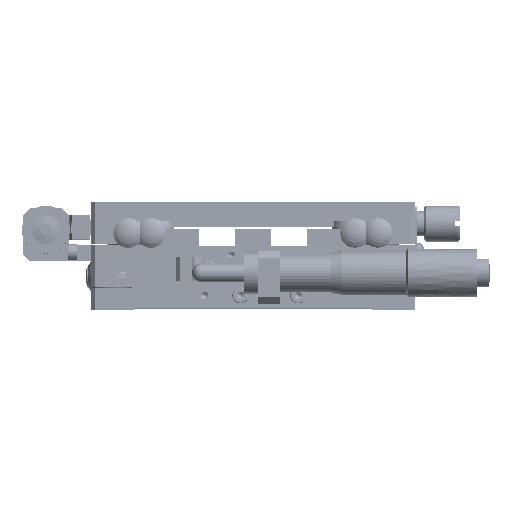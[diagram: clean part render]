
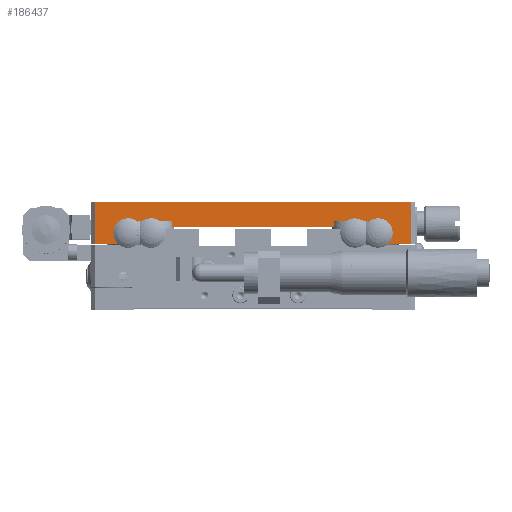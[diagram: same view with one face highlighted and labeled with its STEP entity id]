
A CAD part, top view. The second image highlights one B-rep face of the part: STEP entity #186437.
In plain terms, the highlighted planar face has unit normal (0, 0, 1).
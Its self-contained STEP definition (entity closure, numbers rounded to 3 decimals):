
#3743 = CARTESIAN_POINT ( 'NONE',  ( 7.3, 24.3, 45. ) ) ;
#4353 = DIRECTION ( 'NONE',  ( 1., 0., 0. ) ) ;
#4471 = EDGE_CURVE ( 'NONE', #80592, #74571, #55818, .T. ) ;
#7220 = VERTEX_POINT ( 'NONE', #32679 ) ;
#9411 = VERTEX_POINT ( 'NONE', #82634 ) ;
#9925 = VERTEX_POINT ( 'NONE', #11702 ) ;
#11702 = CARTESIAN_POINT ( 'NONE',  ( 13., 24.6, 45. ) ) ;
#15593 = DIRECTION ( 'NONE',  ( -1., 0., 0. ) ) ;
#17201 = VERTEX_POINT ( 'NONE', #121968 ) ;
#17616 = DIRECTION ( 'NONE',  ( 1., 0., 0. ) ) ;
#20311 = CARTESIAN_POINT ( 'NONE',  ( 22.5, 23., 45. ) ) ;
#23196 = VECTOR ( 'NONE', #150375, 1000. ) ;
#26786 = LINE ( 'NONE', #190597, #160590 ) ;
#32663 = VECTOR ( 'NONE', #204304, 1000. ) ;
#32679 = CARTESIAN_POINT ( 'NONE',  ( 22.5, 23., 45. ) ) ;
#32817 = LINE ( 'NONE', #145621, #53811 ) ;
#34597 = EDGE_CURVE ( 'NONE', #152552, #201559, #93433, .T. ) ;
#35233 = VECTOR ( 'NONE', #121644, 1000. ) ;
#40871 = VECTOR ( 'NONE', #156019, 1000. ) ;
#42072 = VERTEX_POINT ( 'NONE', #79984 ) ;
#44496 = DIRECTION ( 'NONE',  ( 0., 1., 0. ) ) ;
#45454 = EDGE_CURVE ( 'NONE', #80796, #56973, #136289, .T. ) ;
#45707 = LINE ( 'NONE', #93603, #183175 ) ;
#50416 = EDGE_CURVE ( 'NONE', #9411, #9925, #134398, .T. ) ;
#51001 = ORIENTED_EDGE ( 'NONE', *, *, #158434, .T. ) ;
#53811 = VECTOR ( 'NONE', #210495, 1000. ) ;
#54351 = CARTESIAN_POINT ( 'NONE',  ( 67.5, 23., 45. ) ) ;
#54667 = ORIENTED_EDGE ( 'NONE', *, *, #72821, .T. ) ;
#55406 = ORIENTED_EDGE ( 'NONE', *, *, #168867, .F. ) ;
#55818 = LINE ( 'NONE', #137721, #70586 ) ;
#56320 = EDGE_LOOP ( 'NONE', ( #186546, #155270, #199082, #54667, #78952, #147363, #80032, #78651, #72596, #131994, #51001, #187845, #125741, #130331, #158799, #55406 ) ) ;
#56743 = CARTESIAN_POINT ( 'NONE',  ( 7.3, 18.3, 45. ) ) ;
#56973 = VERTEX_POINT ( 'NONE', #74663 ) ;
#57577 = VERTEX_POINT ( 'NONE', #64197 ) ;
#59198 = CARTESIAN_POINT ( 'NONE',  ( 0., 18.3, 45. ) ) ;
#59631 = VERTEX_POINT ( 'NONE', #200493 ) ;
#60154 = VECTOR ( 'NONE', #96994, 1000. ) ;
#60754 = LINE ( 'NONE', #127703, #69471 ) ;
#64197 = CARTESIAN_POINT ( 'NONE',  ( 1., 18.3, 45. ) ) ;
#65938 = VERTEX_POINT ( 'NONE', #105808 ) ;
#69471 = VECTOR ( 'NONE', #160722, 1000. ) ;
#70586 = VECTOR ( 'NONE', #87741, 1000. ) ;
#72596 = ORIENTED_EDGE ( 'NONE', *, *, #45454, .F. ) ;
#72821 = EDGE_CURVE ( 'NONE', #7220, #152552, #135181, .T. ) ;
#74527 = CARTESIAN_POINT ( 'NONE',  ( 67.5, 24.6, 45. ) ) ;
#74571 = VERTEX_POINT ( 'NONE', #165158 ) ;
#74663 = CARTESIAN_POINT ( 'NONE',  ( 82.5, 24.3, 45. ) ) ;
#76921 = LINE ( 'NONE', #56743, #35233 ) ;
#77121 = EDGE_CURVE ( 'NONE', #208986, #59631, #76921, .T. ) ;
#78651 = ORIENTED_EDGE ( 'NONE', *, *, #113555, .F. ) ;
#78952 = ORIENTED_EDGE ( 'NONE', *, *, #34597, .T. ) ;
#79984 = CARTESIAN_POINT ( 'NONE',  ( 22.5, 24.6, 45. ) ) ;
#80032 = ORIENTED_EDGE ( 'NONE', *, *, #175233, .T. ) ;
#80592 = VERTEX_POINT ( 'NONE', #198596 ) ;
#80796 = VERTEX_POINT ( 'NONE', #190763 ) ;
#82634 = CARTESIAN_POINT ( 'NONE',  ( 13., 24.3, 45. ) ) ;
#87741 = DIRECTION ( 'NONE',  ( 1., 0., 0. ) ) ;
#93433 = LINE ( 'NONE', #206221, #100183 ) ;
#93603 = CARTESIAN_POINT ( 'NONE',  ( 77., 24.6, 45. ) ) ;
#96994 = DIRECTION ( 'NONE',  ( -1., 0., 0. ) ) ;
#97415 = LINE ( 'NONE', #98489, #171947 ) ;
#98489 = CARTESIAN_POINT ( 'NONE',  ( 13.5, 24.6, 45. ) ) ;
#100183 = VECTOR ( 'NONE', #44496, 1000. ) ;
#103497 = CARTESIAN_POINT ( 'NONE',  ( 13., 24.6, 45. ) ) ;
#105808 = CARTESIAN_POINT ( 'NONE',  ( 89., 18.3, 45. ) ) ;
#113555 = EDGE_CURVE ( 'NONE', #56973, #149345, #141214, .T. ) ;
#115066 = CARTESIAN_POINT ( 'NONE',  ( 22.5, 24.6, 45. ) ) ;
#116329 = AXIS2_PLACEMENT_3D ( 'NONE', #123588, #139557, #155527 ) ;
#121644 = DIRECTION ( 'NONE',  ( 0., -1., 0. ) ) ;
#121968 = CARTESIAN_POINT ( 'NONE',  ( 77., 24.6, 45. ) ) ;
#123588 = CARTESIAN_POINT ( 'NONE',  ( 0., 18.3, 45. ) ) ;
#123686 = VECTOR ( 'NONE', #179969, 1000. ) ;
#124086 = DIRECTION ( 'NONE',  ( 1., 0., 0. ) ) ;
#125741 = ORIENTED_EDGE ( 'NONE', *, *, #199205, .T. ) ;
#127703 = CARTESIAN_POINT ( 'NONE',  ( 89., 18.3, 45. ) ) ;
#130331 = ORIENTED_EDGE ( 'NONE', *, *, #148527, .T. ) ;
#131994 = ORIENTED_EDGE ( 'NONE', *, *, #208842, .T. ) ;
#134398 = LINE ( 'NONE', #103497, #23196 ) ;
#135181 = LINE ( 'NONE', #20311, #136532 ) ;
#136086 = VECTOR ( 'NONE', #124086, 1000. ) ;
#136289 = LINE ( 'NONE', #201169, #32663 ) ;
#136532 = VECTOR ( 'NONE', #4353, 1000. ) ;
#137721 = CARTESIAN_POINT ( 'NONE',  ( 0., 30., 45. ) ) ;
#139557 = DIRECTION ( 'NONE',  ( 0., 0., 1. ) ) ;
#141214 = LINE ( 'NONE', #174199, #157186 ) ;
#144456 = EDGE_CURVE ( 'NONE', #201559, #17201, #170944, .T. ) ;
#145621 = CARTESIAN_POINT ( 'NONE',  ( 1., 18.3, 45. ) ) ;
#147363 = ORIENTED_EDGE ( 'NONE', *, *, #144456, .T. ) ;
#148527 = EDGE_CURVE ( 'NONE', #57577, #59631, #26786, .T. ) ;
#149345 = VERTEX_POINT ( 'NONE', #167649 ) ;
#150375 = DIRECTION ( 'NONE',  ( 0., 1., 0. ) ) ;
#152390 = FACE_OUTER_BOUND ( 'NONE', #56320, .T. ) ;
#152552 = VERTEX_POINT ( 'NONE', #54351 ) ;
#155270 = ORIENTED_EDGE ( 'NONE', *, *, #166559, .T. ) ;
#155527 = DIRECTION ( 'NONE',  ( 1., 0., 0. ) ) ;
#156019 = DIRECTION ( 'NONE',  ( 1., 0., 0. ) ) ;
#157186 = VECTOR ( 'NONE', #15593, 1000. ) ;
#158434 = EDGE_CURVE ( 'NONE', #65938, #74571, #60754, .T. ) ;
#158533 = DIRECTION ( 'NONE',  ( 0., -1., 0. ) ) ;
#158799 = ORIENTED_EDGE ( 'NONE', *, *, #77121, .F. ) ;
#160590 = VECTOR ( 'NONE', #205505, 1000. ) ;
#160722 = DIRECTION ( 'NONE',  ( 0., 1., 0. ) ) ;
#165158 = CARTESIAN_POINT ( 'NONE',  ( 89., 30., 45. ) ) ;
#166559 = EDGE_CURVE ( 'NONE', #9925, #42072, #97415, .T. ) ;
#167649 = CARTESIAN_POINT ( 'NONE',  ( 77., 24.3, 45. ) ) ;
#168867 = EDGE_CURVE ( 'NONE', #9411, #208986, #174724, .T. ) ;
#170943 = LINE ( 'NONE', #59198, #136086 ) ;
#170944 = LINE ( 'NONE', #187926, #40871 ) ;
#171947 = VECTOR ( 'NONE', #17616, 1000. ) ;
#174199 = CARTESIAN_POINT ( 'NONE',  ( 76.5, 24.3, 45. ) ) ;
#174724 = LINE ( 'NONE', #175769, #60154 ) ;
#175233 = EDGE_CURVE ( 'NONE', #17201, #149345, #45707, .T. ) ;
#175769 = CARTESIAN_POINT ( 'NONE',  ( 13.5, 24.3, 45. ) ) ;
#179969 = DIRECTION ( 'NONE',  ( 0., -1., 0. ) ) ;
#181021 = LINE ( 'NONE', #115066, #123686 ) ;
#183175 = VECTOR ( 'NONE', #158533, 1000. ) ;
#186390 = PLANE ( 'NONE',  #116329 ) ;
#186437 = ADVANCED_FACE ( 'NONE', ( #152390 ), #186390, .T. ) ;
#186546 = ORIENTED_EDGE ( 'NONE', *, *, #50416, .T. ) ;
#187845 = ORIENTED_EDGE ( 'NONE', *, *, #4471, .F. ) ;
#187926 = CARTESIAN_POINT ( 'NONE',  ( 67.5, 24.6, 45. ) ) ;
#188559 = EDGE_CURVE ( 'NONE', #42072, #7220, #181021, .T. ) ;
#190597 = CARTESIAN_POINT ( 'NONE',  ( 0., 18.3, 45. ) ) ;
#190763 = CARTESIAN_POINT ( 'NONE',  ( 82.5, 18.3, 45. ) ) ;
#198596 = CARTESIAN_POINT ( 'NONE',  ( 1., 30., 45. ) ) ;
#199082 = ORIENTED_EDGE ( 'NONE', *, *, #188559, .T. ) ;
#199205 = EDGE_CURVE ( 'NONE', #80592, #57577, #32817, .T. ) ;
#200493 = CARTESIAN_POINT ( 'NONE',  ( 7.3, 18.3, 45. ) ) ;
#201169 = CARTESIAN_POINT ( 'NONE',  ( 82.5, 18.3, 45. ) ) ;
#201559 = VERTEX_POINT ( 'NONE', #74527 ) ;
#204304 = DIRECTION ( 'NONE',  ( 0., 1., 0. ) ) ;
#205505 = DIRECTION ( 'NONE',  ( 1., 0., 0. ) ) ;
#206221 = CARTESIAN_POINT ( 'NONE',  ( 67.5, 23., 45. ) ) ;
#208842 = EDGE_CURVE ( 'NONE', #80796, #65938, #170943, .T. ) ;
#208986 = VERTEX_POINT ( 'NONE', #3743 ) ;
#210495 = DIRECTION ( 'NONE',  ( 0., -1., 0. ) ) ;
